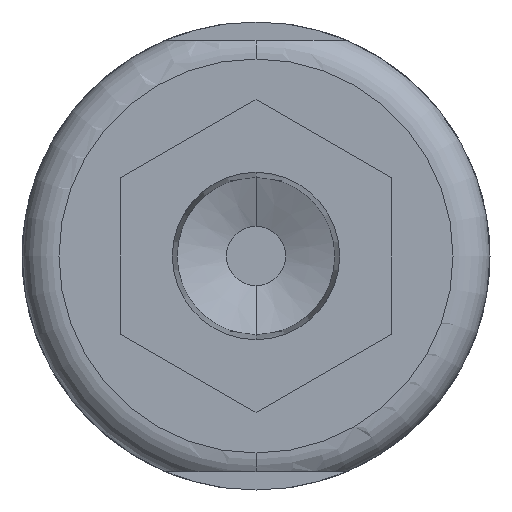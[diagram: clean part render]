
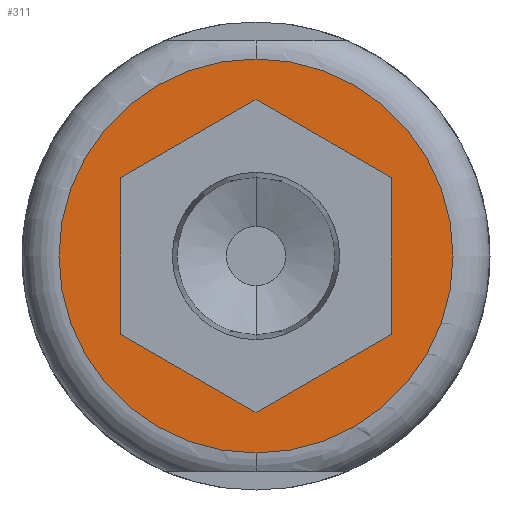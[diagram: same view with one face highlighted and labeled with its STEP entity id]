
A CAD part, front view. The second image highlights one B-rep face of the part: STEP entity #311.
In plain terms, the highlighted planar face has unit normal (0, -1, 0).
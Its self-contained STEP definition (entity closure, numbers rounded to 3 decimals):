
#34 = FACE_OUTER_BOUND ( 'NONE', #770, .T. ) ;
#84 = VECTOR ( 'NONE', #479, 1000. ) ;
#123 = CIRCLE ( 'NONE', #780, 16. ) ;
#212 = VECTOR ( 'NONE', #244, 1000. ) ;
#227 = VECTOR ( 'NONE', #2410, 1000. ) ;
#244 = DIRECTION ( 'NONE',  ( -0.866, 0., 0.5 ) ) ;
#266 = VERTEX_POINT ( 'NONE', #981 ) ;
#289 = AXIS2_PLACEMENT_3D ( 'NONE', #2317, #1773, #1348 ) ;
#311 = ADVANCED_FACE ( 'NONE', ( #34, #438 ), #583, .F. ) ;
#420 = CARTESIAN_POINT ( 'NONE',  ( 0., 0., 0. ) ) ;
#438 = FACE_BOUND ( 'NONE', #670, .T. ) ;
#471 = LINE ( 'NONE', #1449, #84 ) ;
#479 = DIRECTION ( 'NONE',  ( 0.866, 0., 0.5 ) ) ;
#568 = DIRECTION ( 'NONE',  ( 0., -1., 0. ) ) ;
#583 = PLANE ( 'NONE',  #289 ) ;
#631 = EDGE_CURVE ( 'NONE', #660, #657, #123, .T. ) ;
#657 = VERTEX_POINT ( 'NONE', #1197 ) ;
#660 = VERTEX_POINT ( 'NONE', #1803 ) ;
#670 = EDGE_LOOP ( 'NONE', ( #682, #1236, #2384, #2512, #1602, #2335 ) ) ;
#682 = ORIENTED_EDGE ( 'NONE', *, *, #707, .F. ) ;
#707 = EDGE_CURVE ( 'NONE', #1155, #1064, #1857, .T. ) ;
#770 = EDGE_LOOP ( 'NONE', ( #1684, #1285 ) ) ;
#773 = DIRECTION ( 'NONE',  ( 0., 0., 1. ) ) ;
#780 = AXIS2_PLACEMENT_3D ( 'NONE', #420, #2377, #1025 ) ;
#802 = EDGE_CURVE ( 'NONE', #1064, #2200, #471, .T. ) ;
#956 = CARTESIAN_POINT ( 'NONE',  ( -11., 0., 6.351 ) ) ;
#959 = VECTOR ( 'NONE', #1955, 1000. ) ;
#974 = EDGE_CURVE ( 'NONE', #1551, #1155, #1144, .T. ) ;
#981 = CARTESIAN_POINT ( 'NONE',  ( 0., 0., 12.702 ) ) ;
#994 = CARTESIAN_POINT ( 'NONE',  ( 11., 0., -6.351 ) ) ;
#1020 = CARTESIAN_POINT ( 'NONE',  ( 0., 0., 12.702 ) ) ;
#1025 = DIRECTION ( 'NONE',  ( 0., 0., 1. ) ) ;
#1060 = CARTESIAN_POINT ( 'NONE',  ( -11., 0., -6.351 ) ) ;
#1064 = VERTEX_POINT ( 'NONE', #1585 ) ;
#1112 = EDGE_CURVE ( 'NONE', #1450, #266, #1973, .T. ) ;
#1144 = LINE ( 'NONE', #956, #2102 ) ;
#1155 = VERTEX_POINT ( 'NONE', #1060 ) ;
#1197 = CARTESIAN_POINT ( 'NONE',  ( 0., 0., -16. ) ) ;
#1236 = ORIENTED_EDGE ( 'NONE', *, *, #974, .F. ) ;
#1285 = ORIENTED_EDGE ( 'NONE', *, *, #1698, .T. ) ;
#1348 = DIRECTION ( 'NONE',  ( 0., 0., 1. ) ) ;
#1408 = CARTESIAN_POINT ( 'NONE',  ( 11., 0., -6.351 ) ) ;
#1433 = EDGE_CURVE ( 'NONE', #266, #1551, #2333, .T. ) ;
#1449 = CARTESIAN_POINT ( 'NONE',  ( 0., 0., -12.702 ) ) ;
#1450 = VERTEX_POINT ( 'NONE', #2169 ) ;
#1551 = VERTEX_POINT ( 'NONE', #2180 ) ;
#1585 = CARTESIAN_POINT ( 'NONE',  ( 0., 0., -12.702 ) ) ;
#1602 = ORIENTED_EDGE ( 'NONE', *, *, #1895, .F. ) ;
#1612 = CARTESIAN_POINT ( 'NONE',  ( 11., 0., 6.351 ) ) ;
#1673 = CARTESIAN_POINT ( 'NONE',  ( -11., 0., -6.351 ) ) ;
#1684 = ORIENTED_EDGE ( 'NONE', *, *, #631, .T. ) ;
#1698 = EDGE_CURVE ( 'NONE', #657, #660, #1767, .T. ) ;
#1767 = CIRCLE ( 'NONE', #1881, 16. ) ;
#1773 = DIRECTION ( 'NONE',  ( 0., 1., 0. ) ) ;
#1800 = LINE ( 'NONE', #1408, #227 ) ;
#1803 = CARTESIAN_POINT ( 'NONE',  ( 0., 0., 16. ) ) ;
#1857 = LINE ( 'NONE', #1673, #2387 ) ;
#1881 = AXIS2_PLACEMENT_3D ( 'NONE', #2157, #568, #773 ) ;
#1895 = EDGE_CURVE ( 'NONE', #2200, #1450, #1800, .T. ) ;
#1955 = DIRECTION ( 'NONE',  ( -0.866, 0., -0.5 ) ) ;
#1973 = LINE ( 'NONE', #1612, #212 ) ;
#2102 = VECTOR ( 'NONE', #2105, 1000. ) ;
#2105 = DIRECTION ( 'NONE',  ( 0., 0., -1. ) ) ;
#2157 = CARTESIAN_POINT ( 'NONE',  ( 0., 0., 0. ) ) ;
#2169 = CARTESIAN_POINT ( 'NONE',  ( 11., 0., 6.351 ) ) ;
#2180 = CARTESIAN_POINT ( 'NONE',  ( -11., 0., 6.351 ) ) ;
#2200 = VERTEX_POINT ( 'NONE', #994 ) ;
#2317 = CARTESIAN_POINT ( 'NONE',  ( 0., 0., 0. ) ) ;
#2333 = LINE ( 'NONE', #1020, #959 ) ;
#2335 = ORIENTED_EDGE ( 'NONE', *, *, #802, .F. ) ;
#2377 = DIRECTION ( 'NONE',  ( 0., -1., 0. ) ) ;
#2384 = ORIENTED_EDGE ( 'NONE', *, *, #1433, .F. ) ;
#2387 = VECTOR ( 'NONE', #2423, 1000. ) ;
#2410 = DIRECTION ( 'NONE',  ( 0., 0., 1. ) ) ;
#2423 = DIRECTION ( 'NONE',  ( 0.866, 0., -0.5 ) ) ;
#2512 = ORIENTED_EDGE ( 'NONE', *, *, #1112, .F. ) ;
